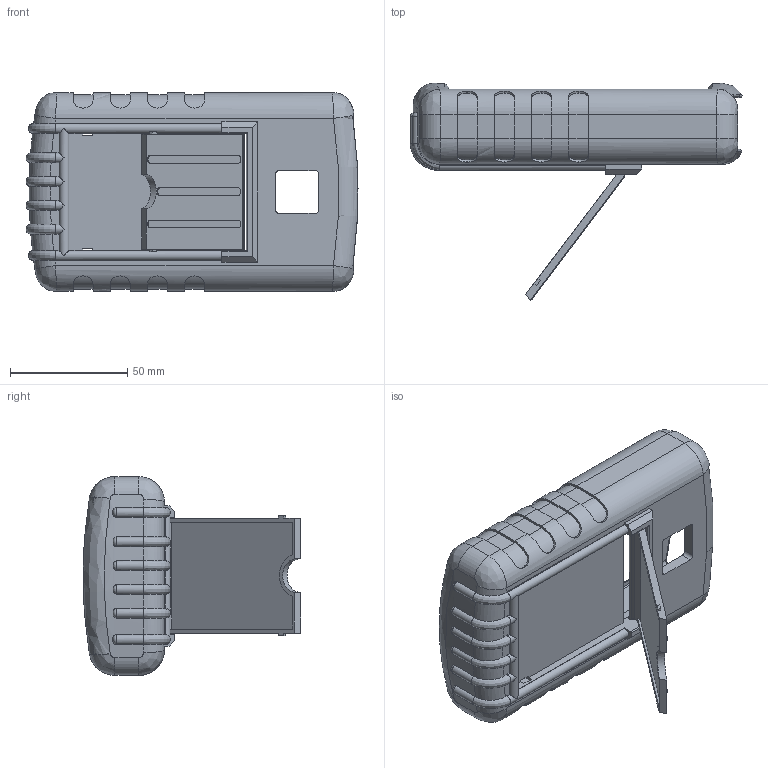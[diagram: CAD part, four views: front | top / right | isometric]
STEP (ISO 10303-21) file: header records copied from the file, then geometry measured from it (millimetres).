
FILE_DESCRIPTION (( 'STEP AP214' ), '1' );
FILE_NAME ('50 RBT Boot.STEP', '2020-06-16T15:50:57', ( 'Rudy' ), ( '' ), 'SwSTEP 2.0', 'SolidWorks 2014', '' );
FILE_SCHEMA (( 'AUTOMOTIVE_DESIGN' ));
Length unit declared in the file: inch
Products named in the file (3): 50 RBT Stand; 50 RBT Boot
Assembly tree (2 placements, depth 2):
  50 RBT Boot
    50 RBT Boot
    50 RBT Stand
Bounding box: 141.83 x 92.8 x 84.99 mm (x, y, z)
Volume: 113702.7 mm3; surface area: 57591.9 mm2
Topology: 2 solids, 2 shells, 387 faces, 1102 edges, 704 vertices
Faces by surface type: plane 167, cylinder 152, bspline 49, torus 9, sphere 8, cone 2
Entity records: 16434 total; most frequent: CARTESIAN_POINT 6859, ORIENTED_EDGE 2188, DIRECTION 1756, EDGE_CURVE 1094, VERTEX_POINT 704, AXIS2_PLACEMENT_3D 590, LINE 576, VECTOR 576
